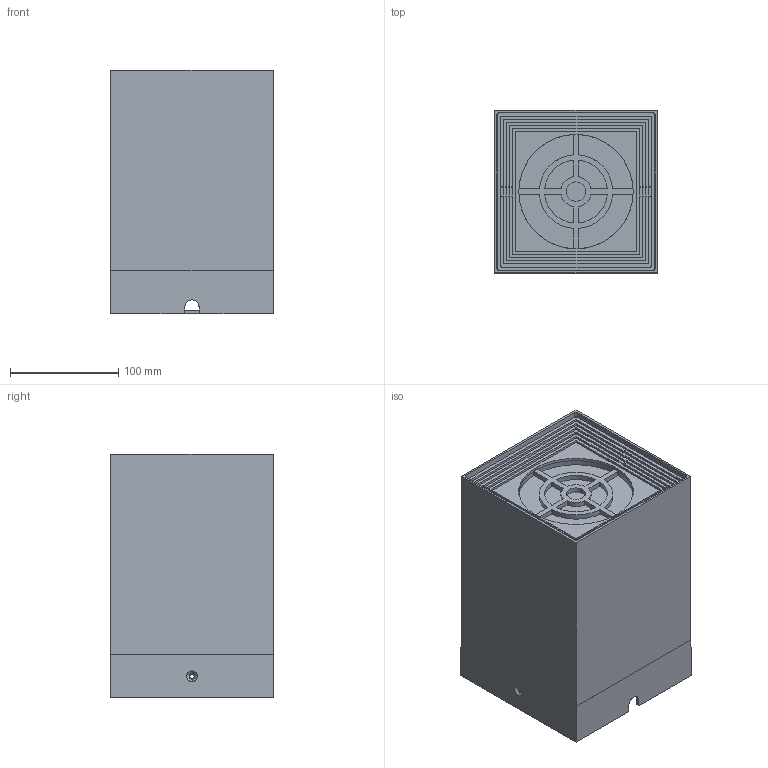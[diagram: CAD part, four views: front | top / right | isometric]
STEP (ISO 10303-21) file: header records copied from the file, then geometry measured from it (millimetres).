
FILE_DESCRIPTION((''),'2;1');
FILE_NAME('8XH___ASM','2024-11-23T',('C028'),(''),'CREO PARAMETRIC BY PTC INC, 2014190','CREO PARAMETRIC BY PTC INC, 2014190','');
FILE_SCHEMA(('CONFIG_CONTROL_DESIGN'));
Products named in the file (33): 8VADT_1_1__; BDDZ_24_1__; 7VANEIGAI_2_6_1__; 7VAUXINGDG_10_8_1__; SCREW-M12_1_19__; XINGUIJIAO_15__; GUIJIAOSAI-005_9__; LUOMUZUJIAN_ASM_15___ASM; M14___ASM; SAN_RE_KUAI__; B57_3D_BIG_1_4__; LENS-BIG_1_4__; SANRELVBAN-160_1_4__; B57-108_COB__2__; 2UA_0611__; B57_ASM_1_ASM_4___ASM; B57_ASM___ASM; 10-1__; 10-2__; 10-3__; 10-4__; 10-5__; 10-7__; 10-8__; 10-10__; LNTC40WXXXLRP__; 3BJ____-11979_3__; ZHI_JIA_22__; HEP__; 10-11__; QI_FA; 8XH_ASM_2_ASM_1___ASM; 8XH___ASM
Assembly tree (33 placements, depth 5):
  8XH___ASM
    8XH_ASM_2_ASM_1___ASM
      8VADT_1_1__
      BDDZ_24_1__
      7VANEIGAI_2_6_1__
      7VAUXINGDG_10_8_1__
      M14___ASM
        LUOMUZUJIAN_ASM_15___ASM
          SCREW-M12_1_19__
          XINGUIJIAO_15__
          GUIJIAOSAI-005_9__
      SAN_RE_KUAI__
      B57_ASM___ASM
        B57_ASM_1_ASM_4___ASM
          B57_3D_BIG_1_4__
          LENS-BIG_1_4__
          SANRELVBAN-160_1_4__
          B57-108_COB__2__
          2UA_0611__
      10-1__
      10-2__
      10-3__
      10-4__
      10-5__
      10-7__
      10-8__
      10-10__  x2
      LNTC40WXXXLRP__
      3BJ____-11979_3__
      ZHI_JIA_22__
      HEP__
      10-11__
      QI_FA
Bounding box: 150.7 x 150.7 x 225 mm (x, y, z)
Volume: 1518920.6 mm3; surface area: 858060.5 mm2
Topology: 28 solids, 28 shells, 4005 faces, 11048 edges, 7199 vertices
Faces by surface type: plane 2494, cylinder 852, cone 324, bspline 166, torus 103, sphere 38, extrusion 28
Entity records: 133773 total; most frequent: CARTESIAN_POINT 33795, ORIENTED_EDGE 21306, DIRECTION 19922, EDGE_CURVE 10653, VECTOR 7422, LINE 7394, VERTEX_POINT 6945, AXIS2_PLACEMENT_3D 6250
